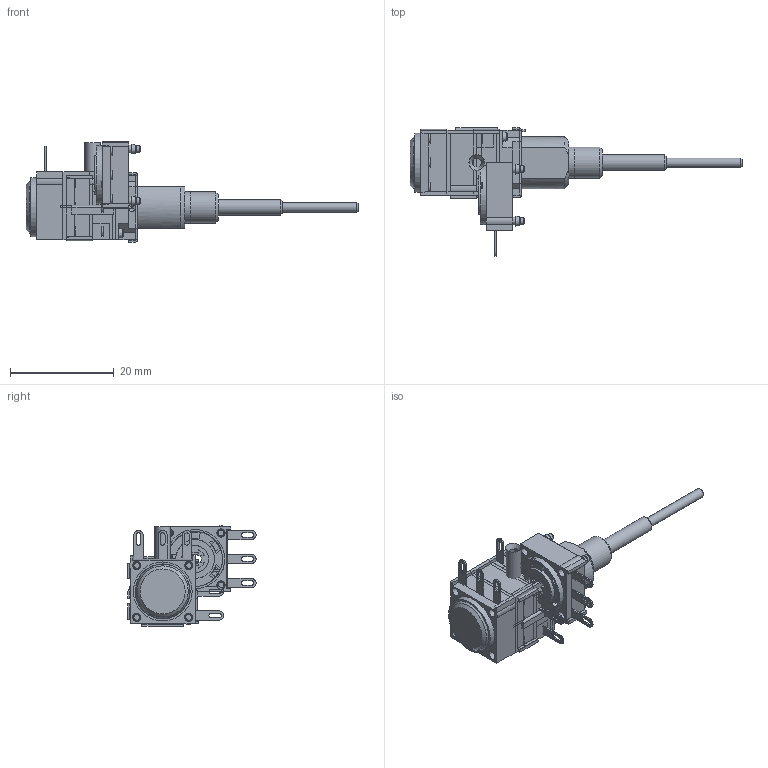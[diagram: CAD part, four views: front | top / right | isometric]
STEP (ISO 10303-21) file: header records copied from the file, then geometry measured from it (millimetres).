
FILE_DESCRIPTION( ( 'Unknown' ), '1' );
FILE_NAME( 'I:/Dev_Pots_Trimmers/01-Plans_Cao/P11/Step/P11S3VACCRY00103KA.stp', 'Unknown', ( 'Unknown' ), ( 'Unknown' ), 'XStep 1.0', 'Unknown', ' ' );
FILE_SCHEMA( ( 'automotive_design' ) );
Length unit declared in the file: millimetre
Products named in the file (28): Assem1; Assem2; Assem3; Assem4; 3657530; 3651100; 3650550; 3650610; 3650993; 3650100; 3650603; 3650640; 3650970; bande à chas; 3657350; 3650540; ergot_A_9H; 3657910; 3657300; 3657800; 3653020
Bounding box: 63.99 x 24.7 x 19.35 mm (x, y, z)
Volume: 7670.9 mm3; surface area: 17363.5 mm2
Topology: 74 solids, 74 shells, 2900 faces, 7503 edges, 4907 vertices
Faces by surface type: plane 1643, cylinder 834, cone 311, bspline 80, torus 32
Full cylindrical faces by diameter (mm): 0.759 x5, 0.9 x2, 0.996 x24, 1.2 x5, 1.3 x60, 1.5 x54, 1.55 x8, 1.8 x4, 1.9 x2, 2 x2, 2.8 x2, 3 x5, 3.6 x2, 3.7 x3, 3.97 x2, 4 x7, 4.1 x6, 4.6 x5, 5.25 x6, 5.6 x2, 6 x4, 6.4 x5, 7.42 x2, 7.44 x6, 8.4 x2, 9.65 x2, 10.2 x2, 10.6 x6, 11.35 x6
Entity records: 29456 total; most frequent: CARTESIAN_POINT 6499, DIRECTION 4639, ORIENTED_EDGE 4268, EDGE_CURVE 2134, AXIS2_PLACEMENT_3D 1706, VERTEX_POINT 1482, EDGE_LOOP 1244, LINE 1227
